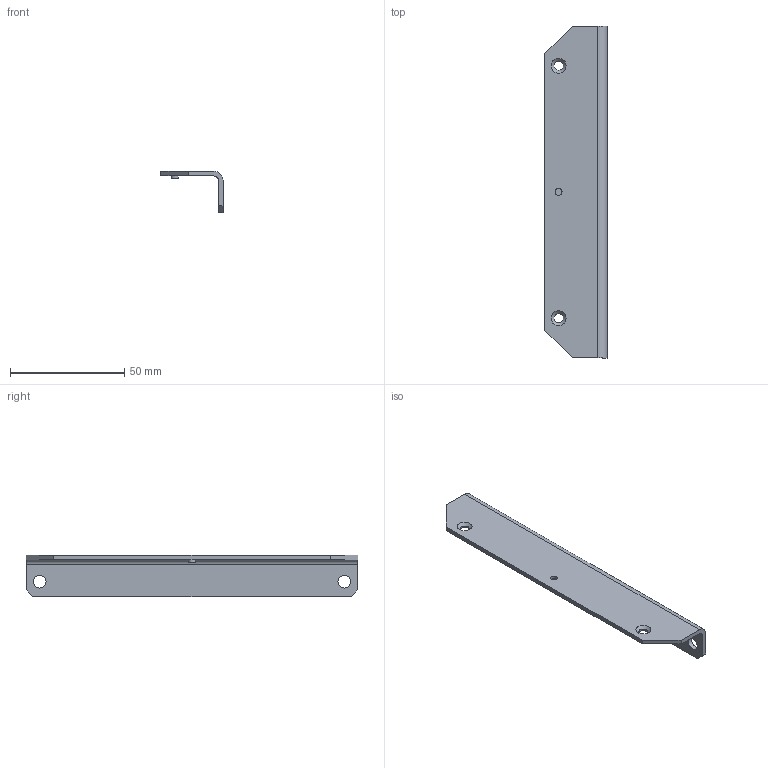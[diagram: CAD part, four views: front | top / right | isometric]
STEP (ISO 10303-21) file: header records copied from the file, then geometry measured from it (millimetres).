
FILE_DESCRIPTION((''),'2;1');
FILE_NAME('C:\Dokumente und Einstellungen\ramczyp\Desktop\EW-364.stp','2010-09-27T13:16:21',('ramczyp'),(''),'Autodesk Inventor 2009','Autodesk Inventor 2009','');
FILE_SCHEMA(('AUTOMOTIVE_DESIGN { 1 0 10303 214 1 1 1 1 }'));
Length unit declared in the file: millimetre
Products named in the file (1): EW-364.890.00
Bounding box: 27.2 x 145 x 18 mm (x, y, z)
Volume: 11678.6 mm3; surface area: 12544 mm2
Topology: 1 solids, 1 shells, 24 faces, 58 edges, 38 vertices
Faces by surface type: plane 14, cylinder 6, bspline 4
Full cylindrical faces by diameter (mm): 3 x2, 5.5 x2
Entity records: 758 total; most frequent: CARTESIAN_POINT 181, DIRECTION 110, ORIENTED_EDGE 100, EDGE_CURVE 50, EDGE_LOOP 42, AXIS2_PLACEMENT_3D 39, VERTEX_POINT 38, VECTOR 32
